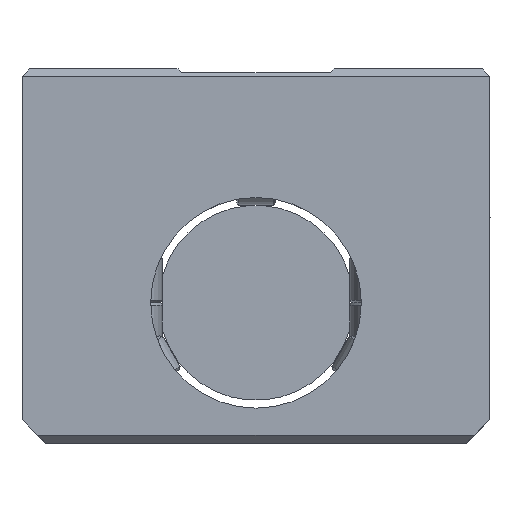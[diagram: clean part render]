
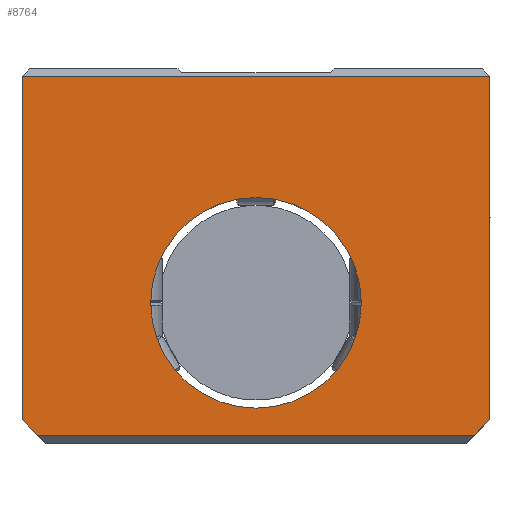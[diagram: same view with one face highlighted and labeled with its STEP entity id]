
A CAD part, left-side view. The second image highlights one B-rep face of the part: STEP entity #8764.
In plain terms, the highlighted planar face has unit normal (-1, 0, 0).
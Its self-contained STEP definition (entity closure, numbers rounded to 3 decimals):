
#7815=CARTESIAN_POINT('',(173.798,-30.0,29.));
#7816=VERTEX_POINT('',#7815);
#7825=CARTESIAN_POINT('',(173.798,-30.0,-15.));
#7826=VERTEX_POINT('',#7825);
#7827=CARTESIAN_POINT('',(173.798,-30.0,29.));
#7828=DIRECTION('',(0.0,0.0,-1.0));
#7829=VECTOR('',#7828,44.0);
#7830=LINE('',#7827,#7829);
#7831=EDGE_CURVE('',#7816,#7826,#7830,.T.);
#8545=CARTESIAN_POINT('',(173.798,30.0,29.));
#8546=VERTEX_POINT('',#8545);
#8553=CARTESIAN_POINT('',(173.798,30.0,29.));
#8554=DIRECTION('',(0.0,-1.0,0.0));
#8555=VECTOR('',#8554,60.0);
#8556=LINE('',#8553,#8555);
#8557=EDGE_CURVE('',#8546,#7816,#8556,.T.);
#8686=CARTESIAN_POINT('',(173.798,-28.,-17.));
#8687=VERTEX_POINT('',#8686);
#8688=CARTESIAN_POINT('',(173.798,-30.0,-15.));
#8689=DIRECTION('',(0.0,0.707,-0.707));
#8690=VECTOR('',#8689,2.828);
#8691=LINE('',#8688,#8690);
#8692=EDGE_CURVE('',#7826,#8687,#8691,.T.);
#8709=CARTESIAN_POINT('',(173.798,28.,-17.));
#8710=VERTEX_POINT('',#8709);
#8719=CARTESIAN_POINT('',(173.798,-28.,-17.));
#8720=DIRECTION('',(0.0,1.0,0.0));
#8721=VECTOR('',#8720,56.);
#8722=LINE('',#8719,#8721);
#8723=EDGE_CURVE('',#8687,#8710,#8722,.T.);
#8728=CARTESIAN_POINT('',(173.798,-20.,29.75));
#8729=DIRECTION('',(1.0,0.0,0.0));
#8730=DIRECTION('',(0.0,0.0,-1.0));
#8731=AXIS2_PLACEMENT_3D('',#8728,#8729,#8730);
#8732=PLANE('',#8731);
#8733=ORIENTED_EDGE('',*,*,#8723,.F.);
#8734=ORIENTED_EDGE('',*,*,#8692,.F.);
#8735=ORIENTED_EDGE('',*,*,#7831,.F.);
#8736=ORIENTED_EDGE('',*,*,#8557,.F.);
#8737=CARTESIAN_POINT('',(173.798,30.0,-15.));
#8738=VERTEX_POINT('',#8737);
#8739=CARTESIAN_POINT('',(173.798,30.0,-15.));
#8740=DIRECTION('',(0.0,0.0,1.0));
#8741=VECTOR('',#8740,44.0);
#8742=LINE('',#8739,#8741);
#8743=EDGE_CURVE('',#8738,#8546,#8742,.T.);
#8744=ORIENTED_EDGE('',*,*,#8743,.F.);
#8745=CARTESIAN_POINT('',(173.798,28.,-17.));
#8746=DIRECTION('',(0.0,0.707,0.707));
#8747=VECTOR('',#8746,2.828);
#8748=LINE('',#8745,#8747);
#8749=EDGE_CURVE('',#8710,#8738,#8748,.T.);
#8750=ORIENTED_EDGE('',*,*,#8749,.F.);
#8751=EDGE_LOOP('',(#8733,#8734,#8735,#8736,#8744,#8750));
#8752=FACE_OUTER_BOUND('',#8751,.T.);
#8753=CARTESIAN_POINT('',(173.798,13.5,0.));
#8754=VERTEX_POINT('',#8753);
#8755=CARTESIAN_POINT('',(173.798,0.0,0.0));
#8756=DIRECTION('',(1.0,0.0,0.0));
#8757=DIRECTION('',(0.0,-1.0,0.0));
#8758=AXIS2_PLACEMENT_3D('',#8755,#8756,#8757);
#8759=CIRCLE('',#8758,13.5);
#8760=EDGE_CURVE('',#8754,#8754,#8759,.T.);
#8761=ORIENTED_EDGE('',*,*,#8760,.T.);
#8762=EDGE_LOOP('',(#8761));
#8763=FACE_BOUND('',#8762,.T.);
#8764=ADVANCED_FACE('',(#8752,#8763),#8732,.F.);
